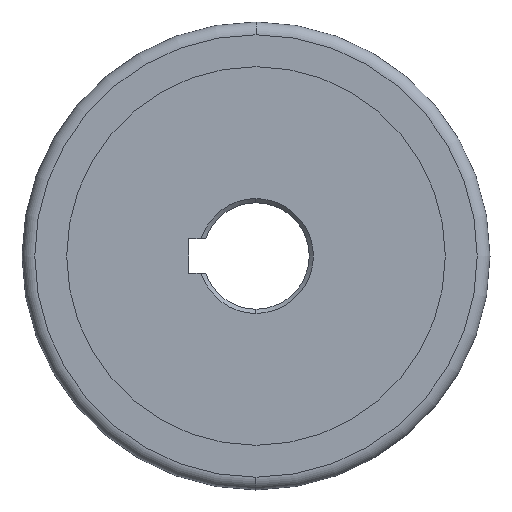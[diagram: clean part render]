
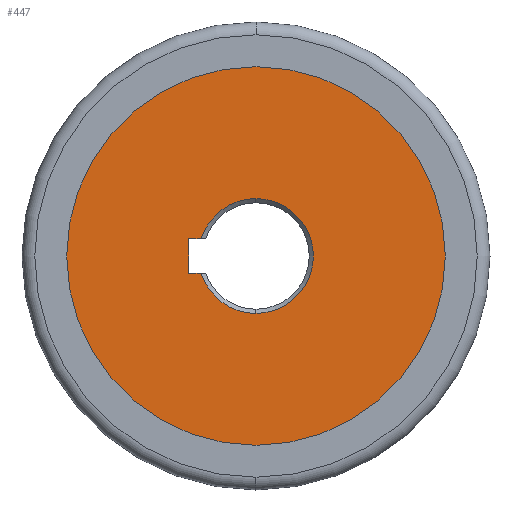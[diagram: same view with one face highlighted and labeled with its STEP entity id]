
A CAD part, left-side view. The second image highlights one B-rep face of the part: STEP entity #447.
In plain terms, the highlighted planar face has unit normal (-1, 0, 0).
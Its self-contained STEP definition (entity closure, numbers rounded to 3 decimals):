
#3 = VERTEX_POINT ( 'NONE', #565 ) ;
#4 = DIRECTION ( 'NONE',  ( 0., 0., 1. ) ) ;
#21 = VECTOR ( 'NONE', #590, 1000. ) ;
#31 = CARTESIAN_POINT ( 'NONE',  ( -28., 0., 13.5 ) ) ;
#32 = VECTOR ( 'NONE', #4, 1000. ) ;
#33 = CIRCLE ( 'NONE', #85, 13.5 ) ;
#46 = CIRCLE ( 'NONE', #680, 13.5 ) ;
#56 = CARTESIAN_POINT ( 'NONE',  ( -28., 15.8, 4. ) ) ;
#73 = CARTESIAN_POINT ( 'NONE',  ( -28., 0., 0. ) ) ;
#75 = VERTEX_POINT ( 'NONE', #237 ) ;
#77 = VERTEX_POINT ( 'NONE', #450 ) ;
#85 = AXIS2_PLACEMENT_3D ( 'NONE', #561, #139, #500 ) ;
#105 = AXIS2_PLACEMENT_3D ( 'NONE', #383, #231, #606 ) ;
#113 = DIRECTION ( 'NONE',  ( 1., 0., 0. ) ) ;
#120 = ORIENTED_EDGE ( 'NONE', *, *, #519, .T. ) ;
#121 = DIRECTION ( 'NONE',  ( -1., 0., 0. ) ) ;
#139 = DIRECTION ( 'NONE',  ( 1., 0., 0. ) ) ;
#157 = CARTESIAN_POINT ( 'NONE',  ( -28., 0., 0. ) ) ;
#158 = LINE ( 'NONE', #368, #21 ) ;
#165 = AXIS2_PLACEMENT_3D ( 'NONE', #453, #121, #508 ) ;
#180 = DIRECTION ( 'NONE',  ( 1., 0., 0. ) ) ;
#186 = VERTEX_POINT ( 'NONE', #31 ) ;
#192 = ORIENTED_EDGE ( 'NONE', *, *, #402, .F. ) ;
#218 = EDGE_LOOP ( 'NONE', ( #436, #192 ) ) ;
#231 = DIRECTION ( 'NONE',  ( 1., 0., 0. ) ) ;
#233 = AXIS2_PLACEMENT_3D ( 'NONE', #334, #113, #665 ) ;
#237 = CARTESIAN_POINT ( 'NONE',  ( -28., 15.8, 4. ) ) ;
#246 = FACE_BOUND ( 'NONE', #388, .T. ) ;
#249 = EDGE_CURVE ( 'NONE', #75, #3, #158, .T. ) ;
#273 = ORIENTED_EDGE ( 'NONE', *, *, #249, .T. ) ;
#286 = EDGE_CURVE ( 'NONE', #405, #75, #714, .T. ) ;
#291 = CARTESIAN_POINT ( 'NONE',  ( -28., 0., 44.5 ) ) ;
#296 = CIRCLE ( 'NONE', #233, 44.5 ) ;
#298 = PLANE ( 'NONE',  #165 ) ;
#305 = EDGE_CURVE ( 'NONE', #442, #373, #296, .T. ) ;
#319 = ORIENTED_EDGE ( 'NONE', *, *, #475, .T. ) ;
#334 = CARTESIAN_POINT ( 'NONE',  ( -28., 0., 0. ) ) ;
#343 = LINE ( 'NONE', #348, #457 ) ;
#348 = CARTESIAN_POINT ( 'NONE',  ( -28., 15.8, -4. ) ) ;
#368 = CARTESIAN_POINT ( 'NONE',  ( -28., 15.8, 4. ) ) ;
#373 = VERTEX_POINT ( 'NONE', #435 ) ;
#383 = CARTESIAN_POINT ( 'NONE',  ( -28., 0., 0. ) ) ;
#388 = EDGE_LOOP ( 'NONE', ( #273, #600, #319, #495, #120, #699 ) ) ;
#400 = FACE_OUTER_BOUND ( 'NONE', #218, .T. ) ;
#402 = EDGE_CURVE ( 'NONE', #373, #442, #583, .T. ) ;
#405 = VERTEX_POINT ( 'NONE', #441 ) ;
#410 = DIRECTION ( 'NONE',  ( 0., 0., 1. ) ) ;
#435 = CARTESIAN_POINT ( 'NONE',  ( -28., 0., -44.5 ) ) ;
#436 = ORIENTED_EDGE ( 'NONE', *, *, #305, .F. ) ;
#441 = CARTESIAN_POINT ( 'NONE',  ( -28., 15.8, -4. ) ) ;
#442 = VERTEX_POINT ( 'NONE', #291 ) ;
#447 = ADVANCED_FACE ( 'NONE', ( #400, #246 ), #298, .T. ) ;
#450 = CARTESIAN_POINT ( 'NONE',  ( -28., 12.894, -4. ) ) ;
#453 = CARTESIAN_POINT ( 'NONE',  ( -28., 0., 0. ) ) ;
#457 = VECTOR ( 'NONE', #564, 1000. ) ;
#467 = EDGE_CURVE ( 'NONE', #3, #186, #619, .T. ) ;
#475 = EDGE_CURVE ( 'NONE', #186, #543, #33, .T. ) ;
#495 = ORIENTED_EDGE ( 'NONE', *, *, #630, .T. ) ;
#500 = DIRECTION ( 'NONE',  ( 0., 0., 1. ) ) ;
#508 = DIRECTION ( 'NONE',  ( 0., 0., 1. ) ) ;
#519 = EDGE_CURVE ( 'NONE', #77, #405, #343, .T. ) ;
#543 = VERTEX_POINT ( 'NONE', #611 ) ;
#561 = CARTESIAN_POINT ( 'NONE',  ( -28., 0., 0. ) ) ;
#564 = DIRECTION ( 'NONE',  ( 0., 1., 0. ) ) ;
#565 = CARTESIAN_POINT ( 'NONE',  ( -28., 12.894, 4. ) ) ;
#583 = CIRCLE ( 'NONE', #105, 44.5 ) ;
#590 = DIRECTION ( 'NONE',  ( 0., -1., 0. ) ) ;
#600 = ORIENTED_EDGE ( 'NONE', *, *, #467, .T. ) ;
#606 = DIRECTION ( 'NONE',  ( 0., 0., 1. ) ) ;
#611 = CARTESIAN_POINT ( 'NONE',  ( -28., 0., -13.5 ) ) ;
#619 = CIRCLE ( 'NONE', #656, 13.5 ) ;
#630 = EDGE_CURVE ( 'NONE', #543, #77, #46, .T. ) ;
#634 = DIRECTION ( 'NONE',  ( 1., 0., 0. ) ) ;
#656 = AXIS2_PLACEMENT_3D ( 'NONE', #73, #180, #668 ) ;
#665 = DIRECTION ( 'NONE',  ( 0., 0., 1. ) ) ;
#668 = DIRECTION ( 'NONE',  ( 0., 0., 1. ) ) ;
#680 = AXIS2_PLACEMENT_3D ( 'NONE', #157, #634, #410 ) ;
#699 = ORIENTED_EDGE ( 'NONE', *, *, #286, .T. ) ;
#714 = LINE ( 'NONE', #56, #32 ) ;
